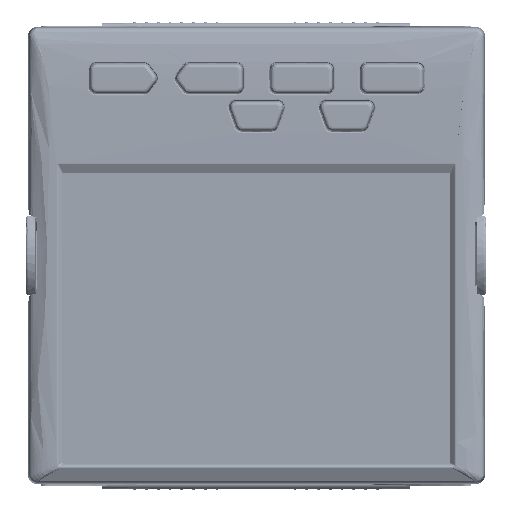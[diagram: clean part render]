
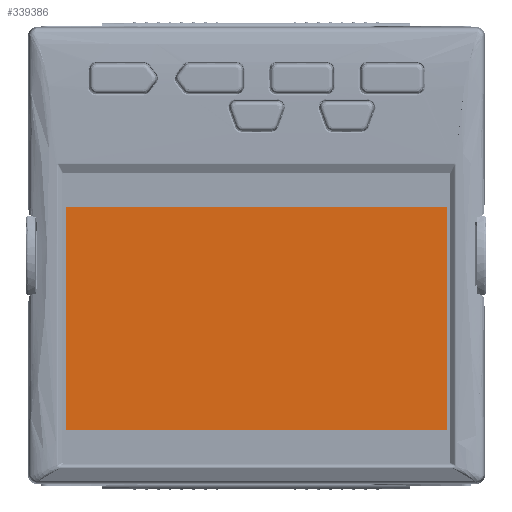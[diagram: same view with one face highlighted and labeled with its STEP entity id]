
A CAD part, top view. The second image highlights one B-rep face of the part: STEP entity #339386.
In plain terms, the highlighted planar face has unit normal (0, 0, 1).
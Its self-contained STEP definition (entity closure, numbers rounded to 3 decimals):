
#124880=CARTESIAN_POINT('',(40.45,10.2,1.2));
#124893=CARTESIAN_POINT('',(-40.45,-37.2,1.2));
#124907=CARTESIAN_POINT('',(40.45,-37.2,1.2));
#124913=DIRECTION('',(0.,-1.,0.));
#124914=VECTOR('',#124913,47.4);
#124915=CARTESIAN_POINT('',(-40.45,10.2,1.2));
#124916=LINE('',#124915,#124914);
#124917=DIRECTION('',(-1.,0.,0.));
#124918=VECTOR('',#124917,80.9);
#124919=CARTESIAN_POINT('',(40.45,10.2,1.2));
#124920=LINE('',#124919,#124918);
#124921=DIRECTION('',(0.,1.,0.));
#124922=VECTOR('',#124921,47.4);
#124923=CARTESIAN_POINT('',(40.45,-37.2,1.2));
#124924=LINE('',#124923,#124922);
#124925=DIRECTION('',(1.,0.,0.));
#124926=VECTOR('',#124925,80.9);
#124927=CARTESIAN_POINT('',(-40.45,-37.2,1.2));
#124928=LINE('',#124927,#124926);
#127983=VERTEX_POINT('',#124880);
#127984=CARTESIAN_POINT('',(-40.45,10.2,1.2));
#127985=VERTEX_POINT('',#127984);
#127986=VERTEX_POINT('',#124907);
#127987=VERTEX_POINT('',#124893);
#339375=CARTESIAN_POINT('',(0.,0.,1.2));
#339376=DIRECTION('',(0.,0.,1.));
#339377=DIRECTION('',(-1.,0.,0.));
#339378=AXIS2_PLACEMENT_3D('',#339375,#339376,#339377);
#339379=PLANE('',#339378);
#339380=ORIENTED_EDGE('',*,*,#339357,.F.);
#339381=ORIENTED_EDGE('',*,*,#339343,.F.);
#339382=ORIENTED_EDGE('',*,*,#339329,.F.);
#339383=ORIENTED_EDGE('',*,*,#339370,.F.);
#339384=EDGE_LOOP('',(#339380,#339381,#339382,#339383));
#339385=FACE_OUTER_BOUND('',#339384,.F.);
#339329=EDGE_CURVE('',#127986,#127983,#124924,.T.);
#339343=EDGE_CURVE('',#127983,#127985,#124920,.T.);
#339357=EDGE_CURVE('',#127985,#127987,#124916,.T.);
#339370=EDGE_CURVE('',#127987,#127986,#124928,.T.);
#339386=ADVANCED_FACE('',(#339385),#339379,.T.);
